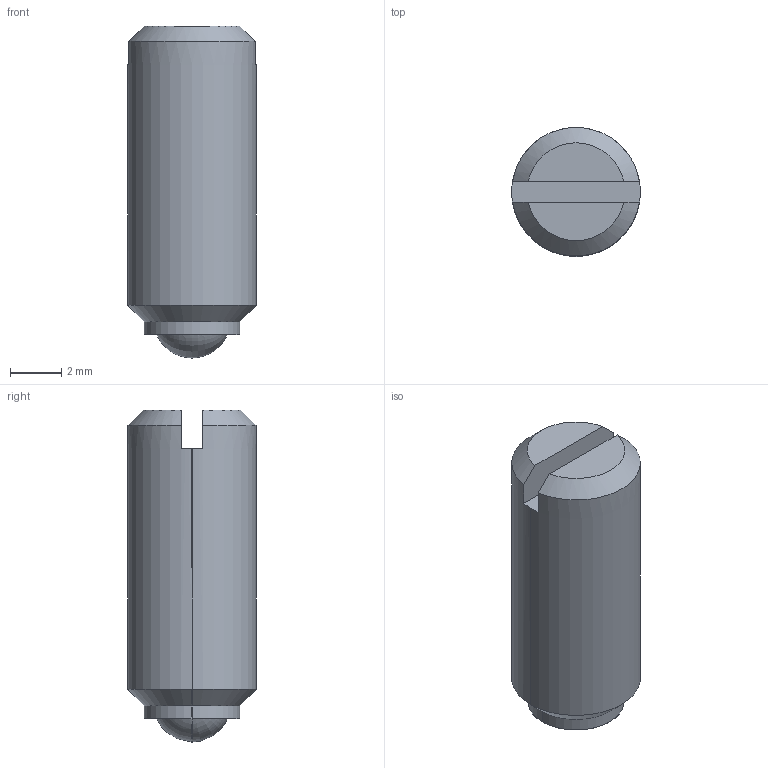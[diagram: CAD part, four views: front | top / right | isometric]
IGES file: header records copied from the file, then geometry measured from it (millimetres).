
Start section: SolidWorks IGES file using analytic representation for surfaces
Global section: file name: X:\11_SW2020-Inv2020\00_全2021-11新製品まで\b\BSTH5\bsth5.IGS; native system: SolidWorks 2020; preprocessor: SolidWorks 2020; author: ImaoCorp; date: 211025.095305; units: millimetre
Bounding box: 5 x 5 x 12.9 mm (x, y, z)
Surface area: 228 mm2 (no closed solid volume)
Topology: 0 solids, 0 shells, 16 faces, 186 edges, 186 vertices
Faces by surface type: revolution 10, bspline 6
